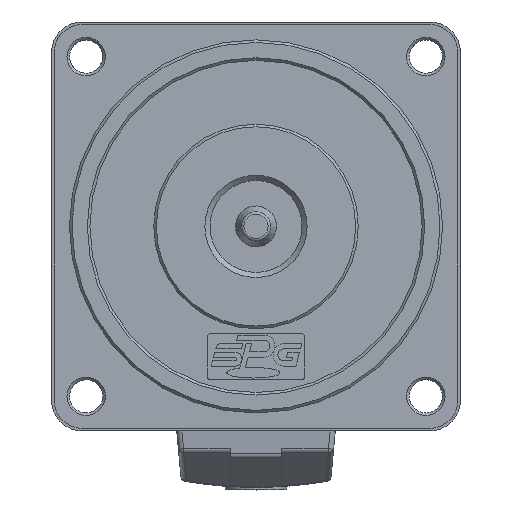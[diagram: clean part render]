
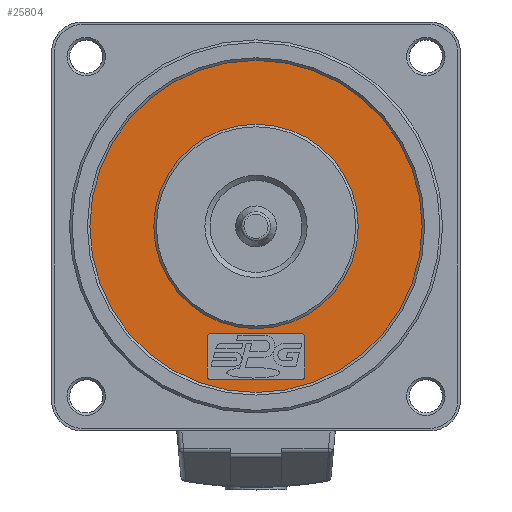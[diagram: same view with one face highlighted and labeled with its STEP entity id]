
A CAD part, top view. The second image highlights one B-rep face of the part: STEP entity #25804.
In plain terms, the highlighted planar face has unit normal (0, 0, 1).
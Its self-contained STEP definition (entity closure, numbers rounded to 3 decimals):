
#23768=CARTESIAN_POINT('',(-30.5,18.5,53.535));
#23769=VERTEX_POINT('',#23768);
#23776=CARTESIAN_POINT('',(-31.,19.,53.535));
#23777=VERTEX_POINT('',#23776);
#23778=CARTESIAN_POINT('',(-31.,18.5,53.535));
#23779=DIRECTION('',(0.,0.,1.0));
#23780=DIRECTION('',(0.707,0.707,0.));
#23781=AXIS2_PLACEMENT_3D('',#23778,#23779,#23780);
#23782=CIRCLE('',#23781,0.5);
#23783=EDGE_CURVE('',#23769,#23777,#23782,.T.);
#23808=CARTESIAN_POINT('',(-30.5,10.5,53.535));
#23809=VERTEX_POINT('',#23808);
#23816=CARTESIAN_POINT('',(-30.5,18.5,53.535));
#23817=DIRECTION('',(0.0,-1.0,0.0));
#23818=VECTOR('',#23817,8.);
#23819=LINE('',#23816,#23818);
#23820=EDGE_CURVE('',#23769,#23809,#23819,.T.);
#23839=CARTESIAN_POINT('',(-31.,10.,53.535));
#23840=VERTEX_POINT('',#23839);
#23847=CARTESIAN_POINT('',(-31.,10.5,53.535));
#23848=DIRECTION('',(0.,0.,1.));
#23849=DIRECTION('',(0.707,-0.707,0.));
#23850=AXIS2_PLACEMENT_3D('',#23847,#23848,#23849);
#23851=CIRCLE('',#23850,0.5);
#23852=EDGE_CURVE('',#23840,#23809,#23851,.T.);
#23872=CARTESIAN_POINT('',(-49.,10.,53.535));
#23873=VERTEX_POINT('',#23872);
#23880=CARTESIAN_POINT('',(-31.,10.,53.535));
#23881=DIRECTION('',(-1.0,0.0,0.0));
#23882=VECTOR('',#23881,18.0);
#23883=LINE('',#23880,#23882);
#23884=EDGE_CURVE('',#23840,#23873,#23883,.T.);
#23903=CARTESIAN_POINT('',(-49.5,10.5,53.535));
#23904=VERTEX_POINT('',#23903);
#23911=CARTESIAN_POINT('',(-49.,10.5,53.535));
#23912=DIRECTION('',(0.,0.,1.0));
#23913=DIRECTION('',(-0.707,-0.707,0.));
#23914=AXIS2_PLACEMENT_3D('',#23911,#23912,#23913);
#23915=CIRCLE('',#23914,0.5);
#23916=EDGE_CURVE('',#23904,#23873,#23915,.T.);
#23936=CARTESIAN_POINT('',(-49.5,18.5,53.535));
#23937=VERTEX_POINT('',#23936);
#23944=CARTESIAN_POINT('',(-49.5,10.5,53.535));
#23945=DIRECTION('',(0.0,1.0,0.0));
#23946=VECTOR('',#23945,8.);
#23947=LINE('',#23944,#23946);
#23948=EDGE_CURVE('',#23904,#23937,#23947,.T.);
#23967=CARTESIAN_POINT('',(-49.,19.,53.535));
#23968=VERTEX_POINT('',#23967);
#23975=CARTESIAN_POINT('',(-49.,18.5,53.535));
#23976=DIRECTION('',(0.,0.,1.0));
#23977=DIRECTION('',(-0.707,0.707,0.));
#23978=AXIS2_PLACEMENT_3D('',#23975,#23976,#23977);
#23979=CIRCLE('',#23978,0.5);
#23980=EDGE_CURVE('',#23968,#23937,#23979,.T.);
#25369=CARTESIAN_POINT('',(-49.,19.,53.535));
#25370=DIRECTION('',(1.0,0.0,0.0));
#25371=VECTOR('',#25370,18.0);
#25372=LINE('',#25369,#25371);
#25373=EDGE_CURVE('',#23968,#23777,#25372,.T.);
#25752=CARTESIAN_POINT('',(-20.0,40.,53.535));
#25753=VERTEX_POINT('',#25752);
#25754=CARTESIAN_POINT('',(-40.0,40.,53.535));
#25755=DIRECTION('',(0.0,0.0,1.0));
#25756=DIRECTION('',(-1.0,0.0,0.0));
#25757=AXIS2_PLACEMENT_3D('',#25754,#25755,#25756);
#25758=CIRCLE('',#25757,20.0);
#25759=EDGE_CURVE('',#25753,#25753,#25758,.T.);
#25775=CARTESIAN_POINT('',(-40.0,40.,53.535));
#25776=DIRECTION('',(0.0,0.0,-1.0));
#25777=DIRECTION('',(-1.0,0.0,0.0));
#25778=AXIS2_PLACEMENT_3D('',#25775,#25776,#25777);
#25779=PLANE('',#25778);
#25780=CARTESIAN_POINT('',(-7.5,40.,53.535));
#25781=VERTEX_POINT('',#25780);
#25782=CARTESIAN_POINT('',(-40.0,40.,53.535));
#25783=DIRECTION('',(0.0,0.0,-1.0));
#25784=DIRECTION('',(-1.0,0.0,0.0));
#25785=AXIS2_PLACEMENT_3D('',#25782,#25783,#25784);
#25786=CIRCLE('',#25785,32.5);
#25787=EDGE_CURVE('',#25781,#25781,#25786,.T.);
#25788=ORIENTED_EDGE('',*,*,#25787,.F.);
#25789=EDGE_LOOP('',(#25788));
#25790=FACE_OUTER_BOUND('',#25789,.T.);
#25791=ORIENTED_EDGE('',*,*,#23948,.T.);
#25792=ORIENTED_EDGE('',*,*,#23980,.F.);
#25793=ORIENTED_EDGE('',*,*,#25373,.T.);
#25794=ORIENTED_EDGE('',*,*,#23783,.F.);
#25795=ORIENTED_EDGE('',*,*,#23820,.T.);
#25796=ORIENTED_EDGE('',*,*,#23852,.F.);
#25797=ORIENTED_EDGE('',*,*,#23884,.T.);
#25798=ORIENTED_EDGE('',*,*,#23916,.F.);
#25799=EDGE_LOOP('',(#25791,#25792,#25793,#25794,#25795,#25796,#25797,#25798));
#25800=FACE_BOUND('',#25799,.T.);
#25801=ORIENTED_EDGE('',*,*,#25759,.F.);
#25802=EDGE_LOOP('',(#25801));
#25803=FACE_BOUND('',#25802,.T.);
#25804=ADVANCED_FACE('',(#25790,#25800,#25803),#25779,.F.);
